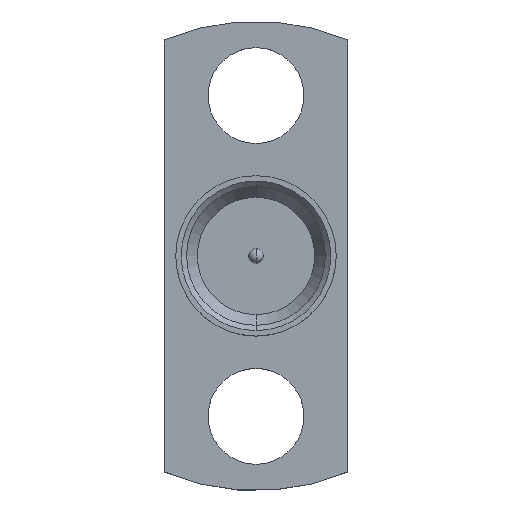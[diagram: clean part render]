
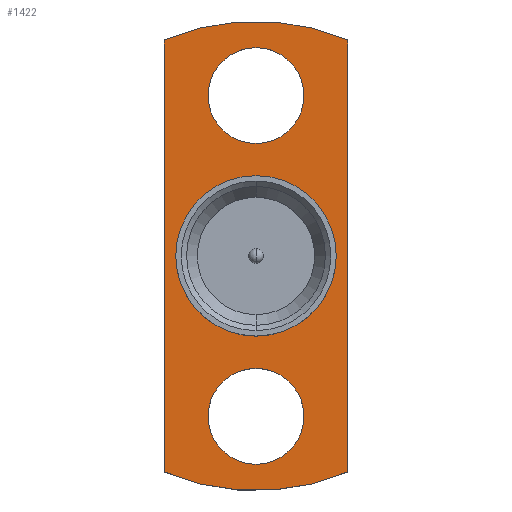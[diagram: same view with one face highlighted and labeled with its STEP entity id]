
A CAD part, top view. The second image highlights one B-rep face of the part: STEP entity #1422.
In plain terms, the highlighted planar face has unit normal (0, 0, 1).
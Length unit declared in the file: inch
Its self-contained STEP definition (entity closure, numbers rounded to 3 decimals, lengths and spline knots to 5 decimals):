
#3 = CARTESIAN_POINT ( 'NONE',  ( 0., 0., -0.075 ) ) ;
#24 = DIRECTION ( 'NONE',  ( 0., 0., -1. ) ) ;
#38 = VERTEX_POINT ( 'NONE', #1784 ) ;
#42 = CIRCLE ( 'NONE', #61, 0.049 ) ;
#56 = VERTEX_POINT ( 'NONE', #2405 ) ;
#61 = AXIS2_PLACEMENT_3D ( 'NONE', #622, #1787, #225 ) ;
#89 = CARTESIAN_POINT ( 'NONE',  ( 0., 0., -0.075 ) ) ;
#117 = CARTESIAN_POINT ( 'NONE',  ( -0.094, 0.22083, -0.075 ) ) ;
#144 = CARTESIAN_POINT ( 'NONE',  ( -0.049, -0.164, -0.075 ) ) ;
#165 = EDGE_CURVE ( 'NONE', #56, #713, #2411, .T. ) ;
#169 = AXIS2_PLACEMENT_3D ( 'NONE', #89, #285, #1836 ) ;
#199 = CARTESIAN_POINT ( 'NONE',  ( 0.094, 0.22083, -0.075 ) ) ;
#225 = DIRECTION ( 'NONE',  ( -1., 0., 0. ) ) ;
#279 = CARTESIAN_POINT ( 'NONE',  ( -0.094, -0.22083, -0.075 ) ) ;
#285 = DIRECTION ( 'NONE',  ( 0., 0., -1. ) ) ;
#293 = EDGE_CURVE ( 'NONE', #328, #715, #1676, .T. ) ;
#302 = CIRCLE ( 'NONE', #930, 0.049 ) ;
#328 = VERTEX_POINT ( 'NONE', #144 ) ;
#332 = DIRECTION ( 'NONE',  ( -1., 0., 0. ) ) ;
#440 = CARTESIAN_POINT ( 'NONE',  ( 0., -0.164, -0.075 ) ) ;
#593 = DIRECTION ( 'NONE',  ( 0., -1., 0. ) ) ;
#622 = CARTESIAN_POINT ( 'NONE',  ( 0., 0.164, -0.075 ) ) ;
#644 = DIRECTION ( 'NONE',  ( -1., 0., 0. ) ) ;
#647 = AXIS2_PLACEMENT_3D ( 'NONE', #1033, #2413, #1069 ) ;
#658 = ORIENTED_EDGE ( 'NONE', *, *, #856, .T. ) ;
#690 = EDGE_LOOP ( 'NONE', ( #1688, #1082 ) ) ;
#704 = FACE_BOUND ( 'NONE', #883, .T. ) ;
#713 = VERTEX_POINT ( 'NONE', #1304 ) ;
#715 = VERTEX_POINT ( 'NONE', #1697 ) ;
#743 = CARTESIAN_POINT ( 'NONE',  ( 0.094, -0.22083, -0.075 ) ) ;
#807 = EDGE_CURVE ( 'NONE', #2325, #1317, #1459, .T. ) ;
#853 = DIRECTION ( 'NONE',  ( -1., 0., 0. ) ) ;
#856 = EDGE_CURVE ( 'NONE', #38, #1895, #42, .T. ) ;
#883 = EDGE_LOOP ( 'NONE', ( #2042, #658 ) ) ;
#900 = EDGE_LOOP ( 'NONE', ( #1259, #2420 ) ) ;
#930 = AXIS2_PLACEMENT_3D ( 'NONE', #1629, #1418, #2014 ) ;
#938 = LINE ( 'NONE', #199, #1089 ) ;
#958 = AXIS2_PLACEMENT_3D ( 'NONE', #440, #1383, #644 ) ;
#1033 = CARTESIAN_POINT ( 'NONE',  ( 0., 0., -0.075 ) ) ;
#1069 = DIRECTION ( 'NONE',  ( -1., 0., 0. ) ) ;
#1076 = CARTESIAN_POINT ( 'NONE',  ( 0., 0., -0.075 ) ) ;
#1082 = ORIENTED_EDGE ( 'NONE', *, *, #1977, .T. ) ;
#1089 = VECTOR ( 'NONE', #593, 39.37008 ) ;
#1161 = DIRECTION ( 'NONE',  ( 0., 0., -1. ) ) ;
#1176 = DIRECTION ( 'NONE',  ( -1., 0., 0. ) ) ;
#1190 = CARTESIAN_POINT ( 'NONE',  ( 0., 0., -0.075 ) ) ;
#1211 = FACE_BOUND ( 'NONE', #900, .T. ) ;
#1218 = DIRECTION ( 'NONE',  ( 0., 1., 0. ) ) ;
#1259 = ORIENTED_EDGE ( 'NONE', *, *, #1851, .T. ) ;
#1304 = CARTESIAN_POINT ( 'NONE',  ( 0.082, 0., -0.075 ) ) ;
#1317 = VERTEX_POINT ( 'NONE', #279 ) ;
#1338 = PLANE ( 'NONE',  #169 ) ;
#1340 = AXIS2_PLACEMENT_3D ( 'NONE', #2049, #2457, #332 ) ;
#1341 = AXIS2_PLACEMENT_3D ( 'NONE', #1190, #24, #1754 ) ;
#1342 = AXIS2_PLACEMENT_3D ( 'NONE', #3, #1161, #1176 ) ;
#1361 = CARTESIAN_POINT ( 'NONE',  ( -0.049, 0.164, -0.075 ) ) ;
#1367 = ORIENTED_EDGE ( 'NONE', *, *, #807, .F. ) ;
#1383 = DIRECTION ( 'NONE',  ( 0., 0., -1. ) ) ;
#1418 = DIRECTION ( 'NONE',  ( 0., 0., -1. ) ) ;
#1422 = ADVANCED_FACE ( 'NONE', ( #1728, #704, #1211, #2254 ), #1338, .F. ) ;
#1459 = CIRCLE ( 'NONE', #1341, 0.24 ) ;
#1525 = VERTEX_POINT ( 'NONE', #117 ) ;
#1532 = CIRCLE ( 'NONE', #1342, 0.082 ) ;
#1623 = ORIENTED_EDGE ( 'NONE', *, *, #2122, .F. ) ;
#1629 = CARTESIAN_POINT ( 'NONE',  ( 0., 0.164, -0.075 ) ) ;
#1676 = CIRCLE ( 'NONE', #1340, 0.049 ) ;
#1684 = LINE ( 'NONE', #2236, #2268 ) ;
#1688 = ORIENTED_EDGE ( 'NONE', *, *, #293, .T. ) ;
#1697 = CARTESIAN_POINT ( 'NONE',  ( 0.049, -0.164, -0.075 ) ) ;
#1728 = FACE_BOUND ( 'NONE', #690, .T. ) ;
#1744 = CARTESIAN_POINT ( 'NONE',  ( 0.094, 0.22083, -0.075 ) ) ;
#1754 = DIRECTION ( 'NONE',  ( -1., 0., 0. ) ) ;
#1784 = CARTESIAN_POINT ( 'NONE',  ( 0.049, 0.164, -0.075 ) ) ;
#1787 = DIRECTION ( 'NONE',  ( 0., 0., -1. ) ) ;
#1814 = ORIENTED_EDGE ( 'NONE', *, *, #1856, .F. ) ;
#1836 = DIRECTION ( 'NONE',  ( -1., 0., 0. ) ) ;
#1851 = EDGE_CURVE ( 'NONE', #713, #56, #1532, .T. ) ;
#1856 = EDGE_CURVE ( 'NONE', #2387, #2325, #938, .T. ) ;
#1895 = VERTEX_POINT ( 'NONE', #1361 ) ;
#1900 = ORIENTED_EDGE ( 'NONE', *, *, #2492, .F. ) ;
#1920 = EDGE_LOOP ( 'NONE', ( #1367, #1814, #1623, #1900 ) ) ;
#1977 = EDGE_CURVE ( 'NONE', #715, #328, #2187, .T. ) ;
#2014 = DIRECTION ( 'NONE',  ( -1., 0., 0. ) ) ;
#2042 = ORIENTED_EDGE ( 'NONE', *, *, #2066, .T. ) ;
#2049 = CARTESIAN_POINT ( 'NONE',  ( 0., -0.164, -0.075 ) ) ;
#2066 = EDGE_CURVE ( 'NONE', #1895, #38, #302, .T. ) ;
#2122 = EDGE_CURVE ( 'NONE', #1525, #2387, #2309, .T. ) ;
#2187 = CIRCLE ( 'NONE', #958, 0.049 ) ;
#2190 = AXIS2_PLACEMENT_3D ( 'NONE', #1076, #2215, #853 ) ;
#2215 = DIRECTION ( 'NONE',  ( 0., 0., -1. ) ) ;
#2236 = CARTESIAN_POINT ( 'NONE',  ( -0.094, 0.22083, -0.075 ) ) ;
#2254 = FACE_OUTER_BOUND ( 'NONE', #1920, .T. ) ;
#2268 = VECTOR ( 'NONE', #1218, 39.37008 ) ;
#2309 = CIRCLE ( 'NONE', #2190, 0.24 ) ;
#2325 = VERTEX_POINT ( 'NONE', #743 ) ;
#2387 = VERTEX_POINT ( 'NONE', #1744 ) ;
#2405 = CARTESIAN_POINT ( 'NONE',  ( -0.082, 0., -0.075 ) ) ;
#2411 = CIRCLE ( 'NONE', #647, 0.082 ) ;
#2413 = DIRECTION ( 'NONE',  ( 0., 0., -1. ) ) ;
#2420 = ORIENTED_EDGE ( 'NONE', *, *, #165, .T. ) ;
#2457 = DIRECTION ( 'NONE',  ( 0., 0., -1. ) ) ;
#2492 = EDGE_CURVE ( 'NONE', #1317, #1525, #1684, .T. ) ;
